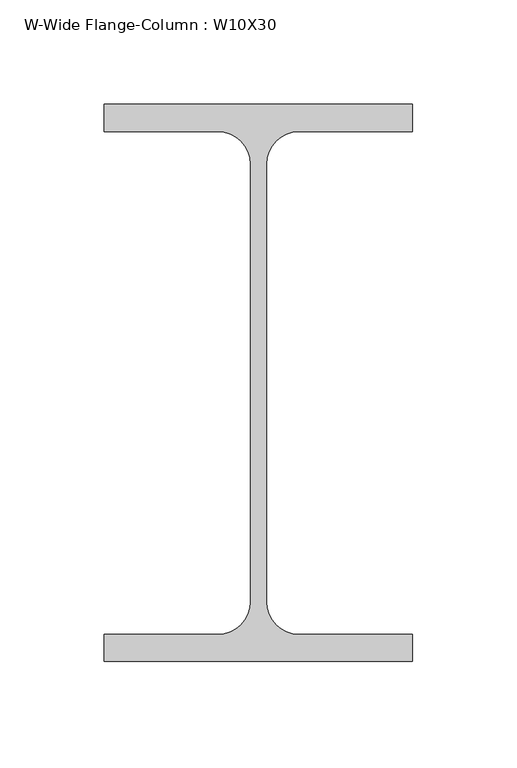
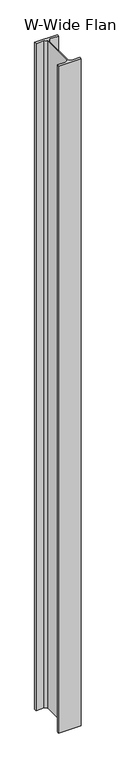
"""IFC4 building model written with IfcOpenShell, lengths in millimetres: column geometry, W-Wide Flange-Column : W10X30."""

from ifc_helpers import new_model, si_unit, point, frame, frame_2d, origin, place, context, project, spatial, polyline, circle_curve, trimmed, segment, composite_curve, outline, extrude, source, transform, mapped, element, save


def w_wide_flange_column_w10x30_8d73ec1b(model_context):
    return source(origin(), model_context, "Body", "SweptSolid", [
        extrude(outline(composite_curve([segment(polyline([(73.787, 133.35), (73.787, 120.396), (19.431, 120.396)]), True, "CONTINUOUS"), segment(trimmed(circle_curve(frame_2d((19.431, 104.775)), 15.621), [point((19.431, 120.396))], [point((3.81, 104.775))], True, "CARTESIAN"), True, "CONTINUOUS"), segment(polyline([(3.81, 104.775), (3.81, -104.775)]), True, "CONTINUOUS"), segment(trimmed(circle_curve(frame_2d((19.431, -104.775)), 15.621), [point((3.81, -104.775))], [point((19.431, -120.396))], True, "CARTESIAN"), True, "CONTINUOUS"), segment(polyline([(19.431, -120.396), (73.787, -120.396), (73.787, -133.35), (-73.787, -133.35), (-73.787, -120.396), (-19.431, -120.396)]), True, "CONTINUOUS"), segment(trimmed(circle_curve(frame_2d((-19.431, -104.775)), 15.621), [point((-19.431, -120.396))], [point((-3.81, -104.775))], True, "CARTESIAN"), True, "CONTINUOUS"), segment(polyline([(-3.81, -104.775), (-3.81, 104.775)]), True, "CONTINUOUS"), segment(trimmed(circle_curve(frame_2d((-19.431, 104.775)), 15.621), [point((-3.81, 104.775))], [point((-19.431, 120.396))], True, "CARTESIAN"), True, "CONTINUOUS"), segment(polyline([(-19.431, 120.396), (-73.787, 120.396), (-73.787, 133.35), (73.787, 133.35)]), True, "CONTINUOUS")], self_intersect=False)), frame((0.0, 0.0, 4445.0), z_axis=(0.0, 0.0, 1.0), x_axis=(1.0, 0.0, 0.0)), (0.0, 0.0, 1.0), 4572.0),
    ])


if __name__ == "__main__":
    model = new_model("IFC4")
    model_context = context("Model", 3, world=origin())
    ifc_project = project(units=[si_unit("LENGTHUNIT", "METRE", prefix="MILLI")], contexts=[model_context])
    site = spatial("IfcSite", under=ifc_project)
    building = spatial("IfcBuilding", under=site)
    placement = place(None, origin())
    w_wide_flange_column_w10x30_shape = w_wide_flange_column_w10x30_8d73ec1b(model_context)
    element("IfcColumn", 1, ObjectType="W-Wide Flange-Column : W10X30", at=placement, inside=building, context=model_context, shape_type="MappedRepresentation", body=[
        mapped(w_wide_flange_column_w10x30_shape, transform((0.0, 0.0, 0.0), x_axis=(1.0, 0.0, 0.0), y_axis=(0.0, 1.0, 0.0), z_axis=(0.0, 0.0, 1.0))),
    ])
    save(model, "model.ifc")
